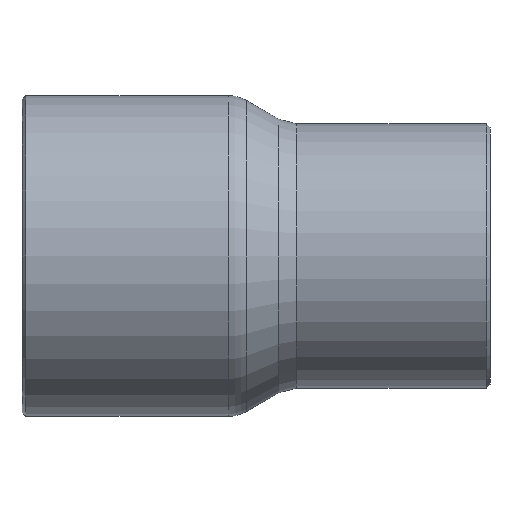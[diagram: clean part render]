
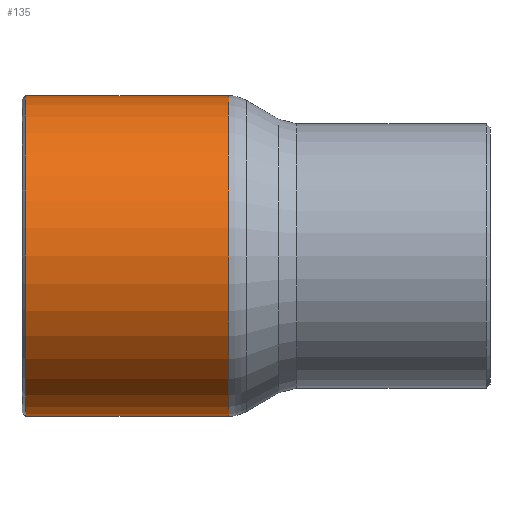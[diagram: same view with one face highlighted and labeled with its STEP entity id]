
A CAD part, front view. The second image highlights one B-rep face of the part: STEP entity #135.
In plain terms, the highlighted cylindrical face has radius 9.047 mm (diameter 18.095 mm), a full revolution.
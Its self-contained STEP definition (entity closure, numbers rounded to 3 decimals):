
#84=CARTESIAN_POINT('',(-16.9,9.047,0.));
#85=VERTEX_POINT('',#84);
#86=CARTESIAN_POINT('',(-16.9,0.0,0.0));
#87=DIRECTION('',(-1.0,0.0,0.0));
#88=DIRECTION('',(0.0,-1.0,0.0));
#89=AXIS2_PLACEMENT_3D('',#86,#87,#88);
#90=CIRCLE('',#89,9.047);
#91=EDGE_CURVE('',#85,#85,#90,.T.);
#116=CARTESIAN_POINT('',(-11.275,0.0,0.0));
#117=DIRECTION('',(1.0,0.0,0.0));
#118=DIRECTION('',(0.0,1.0,0.0));
#119=AXIS2_PLACEMENT_3D('',#116,#117,#118);
#120=CYLINDRICAL_SURFACE('',#119,9.047);
#121=CARTESIAN_POINT('',(-5.45,9.047,0.0));
#122=VERTEX_POINT('',#121);
#123=CARTESIAN_POINT('',(-5.45,0.0,0.0));
#124=DIRECTION('',(1.0,0.0,0.0));
#125=DIRECTION('',(0.0,1.0,0.0));
#126=AXIS2_PLACEMENT_3D('',#123,#124,#125);
#127=CIRCLE('',#126,9.047);
#128=EDGE_CURVE('',#122,#122,#127,.T.);
#129=ORIENTED_EDGE('',*,*,#128,.F.);
#130=EDGE_LOOP('',(#129));
#131=FACE_OUTER_BOUND('',#130,.T.);
#132=ORIENTED_EDGE('',*,*,#91,.F.);
#133=EDGE_LOOP('',(#132));
#134=FACE_BOUND('',#133,.T.);
#135=ADVANCED_FACE('',(#131,#134),#120,.T.);
